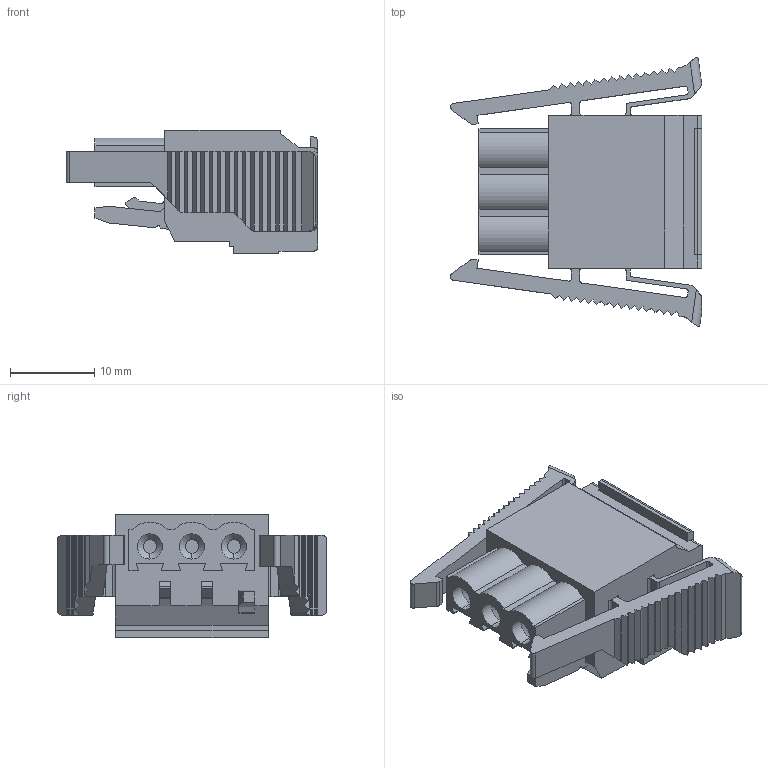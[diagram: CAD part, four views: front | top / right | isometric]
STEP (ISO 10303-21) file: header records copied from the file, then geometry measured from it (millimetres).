
FILE_DESCRIPTION((''),'2;1');
FILE_NAME('3','2019-05-05T',('zhenbing.lai'),(''),'CREO PARAMETRIC BY PTC INC, 2016260','CREO PARAMETRIC BY PTC INC, 2016260','');
FILE_SCHEMA(('CONFIG_CONTROL_DESIGN'));
Length unit declared in the file: millimetre
Products named in the file (1): 3
Bounding box: 29.91 x 32.03 x 14.7 mm (x, y, z)
Volume: 5699.3 mm3; surface area: 4230.6 mm2
Topology: 1 solids, 5 shells, 596 faces, 1594 edges, 1026 vertices
Faces by surface type: plane 362, cylinder 156, cone 57, bspline 12, sphere 6, torus 3
Entity records: 19060 total; most frequent: CARTESIAN_POINT 4148, ORIENTED_EDGE 3176, DIRECTION 2968, EDGE_CURVE 1588, VECTOR 1168, LINE 1168, VERTEX_POINT 1026, AXIS2_PLACEMENT_3D 900
